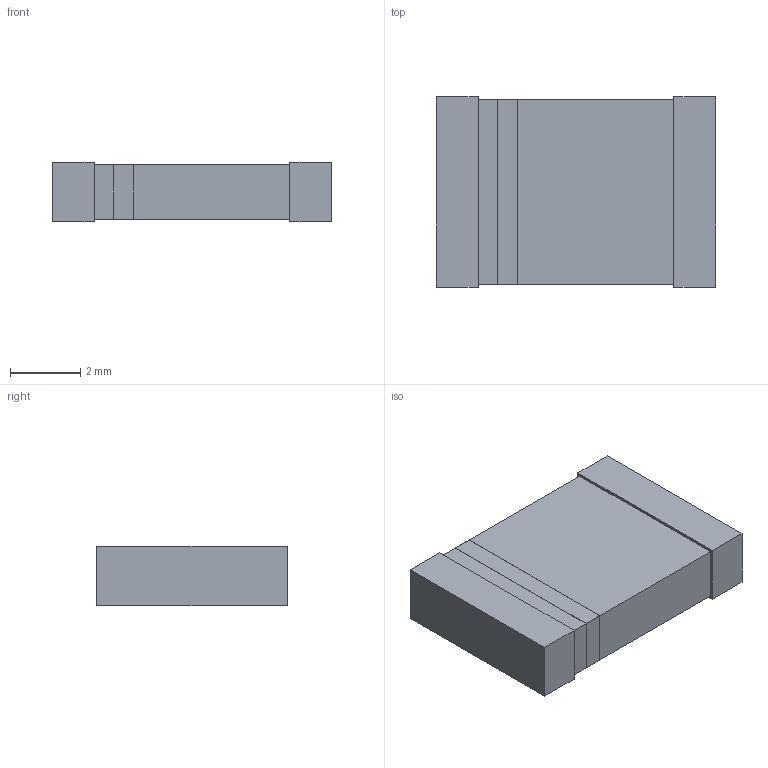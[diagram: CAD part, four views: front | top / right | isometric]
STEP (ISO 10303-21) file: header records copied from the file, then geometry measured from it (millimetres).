
FILE_DESCRIPTION(('STEP AP214'),'1');
FILE_NAME('FUSE_100AF2A_BEL','2024-08-01T03:06:33',(''),(''),'','','');
FILE_SCHEMA(('AUTOMOTIVE_DESIGN'));
Length unit declared in the file: millimetre
Products named in the file (1): product
Bounding box: 7.98 x 5.44 x 1.7 mm (x, y, z)
Volume: 67.7 mm3; surface area: 179.1 mm2
Topology: 4 solids, 4 shells, 30 faces, 64 edges, 40 vertices
Faces by surface type: plane 30
Entity records: 916 total; most frequent: ORIENTED_EDGE 128, DIRECTION 126, CARTESIAN_POINT 71, EDGE_CURVE 64, LINE 64, VECTOR 64, VERTEX_POINT 40, AXIS2_PLACEMENT_3D 31
